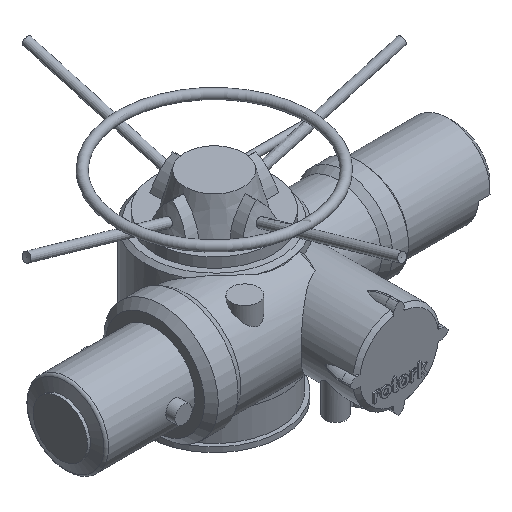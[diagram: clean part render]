
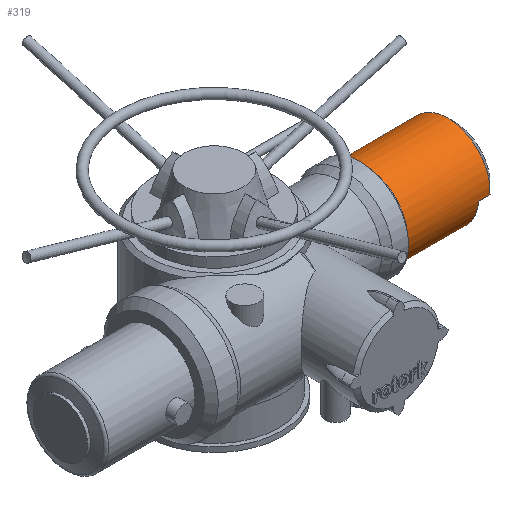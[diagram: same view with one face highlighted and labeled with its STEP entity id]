
A CAD part, isometric view. The second image highlights one B-rep face of the part: STEP entity #319.
In plain terms, the highlighted cylindrical face has radius 93.5 mm (diameter 187 mm), a full revolution.
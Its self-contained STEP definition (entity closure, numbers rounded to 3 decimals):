
#319 = ADVANCED_FACE( '', ( #964, #965 ), #966, .T. );
#964 = FACE_OUTER_BOUND( '', #1719, .T. );
#965 = FACE_OUTER_BOUND( '', #1720, .T. );
#966 = CYLINDRICAL_SURFACE( '', #1721, 93.5 );
#1719 = EDGE_LOOP( '', ( #3865, #3866, #3867, #3868, #3869, #3870, #3871, #3872 ) );
#1720 = EDGE_LOOP( '', ( #3873 ) );
#1721 = AXIS2_PLACEMENT_3D( '', #3874, #3875, #3876 );
#3865 = ORIENTED_EDGE( '', *, *, #4580, .T. );
#3866 = ORIENTED_EDGE( '', *, *, #4588, .F. );
#3867 = ORIENTED_EDGE( '', *, *, #4591, .T. );
#3868 = ORIENTED_EDGE( '', *, *, #4586, .F. );
#3869 = ORIENTED_EDGE( '', *, *, #4574, .T. );
#3870 = ORIENTED_EDGE( '', *, *, #4583, .F. );
#3871 = ORIENTED_EDGE( '', *, *, #4576, .T. );
#3872 = ORIENTED_EDGE( '', *, *, #4590, .F. );
#3873 = ORIENTED_EDGE( '', *, *, #4595, .F. );
#3874 = CARTESIAN_POINT( '', ( -26.871, -35., 0. ) );
#3875 = DIRECTION( '', ( 1., 0., 0. ) );
#3876 = DIRECTION( '', ( 0., 0., 1. ) );
#4574 = EDGE_CURVE( '', #5624, #5626, #5628, .F. );
#4576 = EDGE_CURVE( '', #5631, #5629, #5632, .T. );
#4580 = EDGE_CURVE( '', #5634, #5636, #5638, .F. );
#4583 = EDGE_CURVE( '', #5631, #5626, #5641, .T. );
#4586 = EDGE_CURVE( '', #5624, #5644, #5645, .F. );
#4588 = EDGE_CURVE( '', #5647, #5636, #5648, .T. );
#4590 = EDGE_CURVE( '', #5634, #5629, #5650, .F. );
#4591 = EDGE_CURVE( '', #5647, #5644, #5651, .T. );
#4595 = EDGE_CURVE( '', #5658, #5658, #5659, .T. );
#5624 = VERTEX_POINT( '', #9667 );
#5626 = VERTEX_POINT( '', #9672 );
#5628 = CIRCLE( '', #9677, 93.5 );
#5629 = VERTEX_POINT( '', #9678 );
#5631 = VERTEX_POINT( '', #9683 );
#5632 = CIRCLE( '', #9684, 93.5 );
#5634 = VERTEX_POINT( '', #9689 );
#5636 = VERTEX_POINT( '', #9694 );
#5638 = CIRCLE( '', #9699, 93.5 );
#5641 = LINE( '', #9704, #9705 );
#5644 = VERTEX_POINT( '', #9710 );
#5645 = LINE( '', #9711, #9712 );
#5647 = VERTEX_POINT( '', #9717 );
#5648 = LINE( '', #9718, #9719 );
#5650 = LINE( '', #9724, #9725 );
#5651 = CIRCLE( '', #9726, 93.5 );
#5658 = VERTEX_POINT( '', #9733 );
#5659 = CIRCLE( '', #9734, 93.5 );
#9667 = CARTESIAN_POINT( '', ( 455.7, -42., -93.238 ) );
#9672 = CARTESIAN_POINT( '', ( 455.7, -128.238, -7. ) );
#9677 = AXIS2_PLACEMENT_3D( '', #10692, #10693, #10694 );
#9678 = CARTESIAN_POINT( '', ( 480.7, 58.238, -7. ) );
#9683 = CARTESIAN_POINT( '', ( 480.7, -128.238, -7. ) );
#9684 = AXIS2_PLACEMENT_3D( '', #10695, #10696, #10697 );
#9689 = CARTESIAN_POINT( '', ( 455.7, 58.238, -7. ) );
#9694 = CARTESIAN_POINT( '', ( 455.7, -28., -93.238 ) );
#9699 = AXIS2_PLACEMENT_3D( '', #10698, #10699, #10700 );
#9704 = CARTESIAN_POINT( '', ( -26.871, -128.238, -7. ) );
#9705 = VECTOR( '', #10703, 1000. );
#9710 = CARTESIAN_POINT( '', ( 480.7, -42., -93.238 ) );
#9711 = CARTESIAN_POINT( '', ( -26.871, -42., -93.238 ) );
#9712 = VECTOR( '', #10706, 1000. );
#9717 = CARTESIAN_POINT( '', ( 480.7, -28., -93.238 ) );
#9718 = CARTESIAN_POINT( '', ( -26.871, -28., -93.238 ) );
#9719 = VECTOR( '', #10707, 1000. );
#9724 = CARTESIAN_POINT( '', ( -26.871, 58.238, -7. ) );
#9725 = VECTOR( '', #10708, 1000. );
#9726 = AXIS2_PLACEMENT_3D( '', #10709, #10710, #10711 );
#9733 = CARTESIAN_POINT( '', ( 298.7, -35., 93.5 ) );
#9734 = AXIS2_PLACEMENT_3D( '', #10721, #10722, #10723 );
#10692 = CARTESIAN_POINT( '', ( 455.7, -35., 0. ) );
#10693 = DIRECTION( '', ( 1., 0., 0. ) );
#10694 = DIRECTION( '', ( 0., 0., -1. ) );
#10695 = CARTESIAN_POINT( '', ( 480.7, -35., 0. ) );
#10696 = DIRECTION( '', ( -1., 0., 0. ) );
#10697 = DIRECTION( '', ( 0., 0., 1. ) );
#10698 = CARTESIAN_POINT( '', ( 455.7, -35., 0. ) );
#10699 = DIRECTION( '', ( 1., 0., 0. ) );
#10700 = DIRECTION( '', ( 0., 0., -1. ) );
#10703 = DIRECTION( '', ( -1., 0., 0. ) );
#10706 = DIRECTION( '', ( -1., 0., 0. ) );
#10707 = DIRECTION( '', ( -1., 0., 0. ) );
#10708 = DIRECTION( '', ( -1., 0., 0. ) );
#10709 = CARTESIAN_POINT( '', ( 480.7, -35., 0. ) );
#10710 = DIRECTION( '', ( -1., 0., 0. ) );
#10711 = DIRECTION( '', ( 0., 0., 1. ) );
#10721 = CARTESIAN_POINT( '', ( 298.7, -35., 0. ) );
#10722 = DIRECTION( '', ( -1., 0., 0. ) );
#10723 = DIRECTION( '', ( 0., 0., 1. ) );
